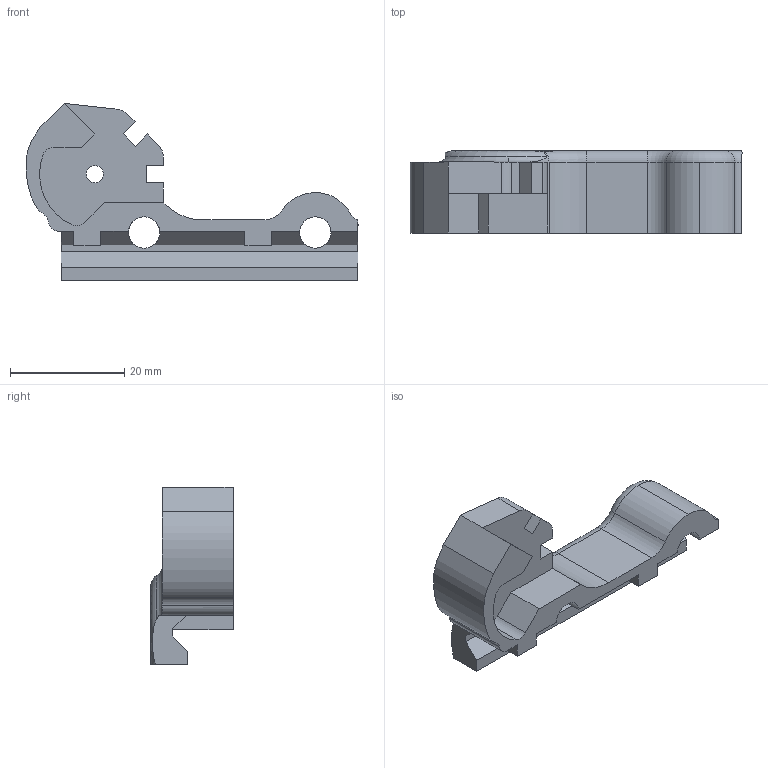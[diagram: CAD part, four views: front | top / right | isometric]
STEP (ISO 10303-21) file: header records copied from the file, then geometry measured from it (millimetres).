
FILE_DESCRIPTION (( 'STEP AP214' ), '1' );
FILE_NAME ('43x 93R style foregrip right.STEP', '2020-12-17T02:48:45', ( '' ), ( '' ), 'SwSTEP 2.0', 'SolidWorks 2016', '' );
FILE_SCHEMA (( 'AUTOMOTIVE_DESIGN' ));
Length unit declared in the file: millimetre
Products named in the file (1): 43x 93R style foregrip right
Bounding box: 58.18 x 14.44 x 31.06 mm (x, y, z)
Volume: 7208 mm3; surface area: 4822 mm2
Topology: 1 solids, 1 shells, 79 faces, 227 edges, 148 vertices
Faces by surface type: plane 47, cylinder 24, torus 7, bspline 1
Entity records: 2735 total; most frequent: CARTESIAN_POINT 602, ORIENTED_EDGE 454, DIRECTION 431, EDGE_CURVE 227, VERTEX_POINT 148, VECTOR 145, LINE 145, AXIS2_PLACEMENT_3D 143
